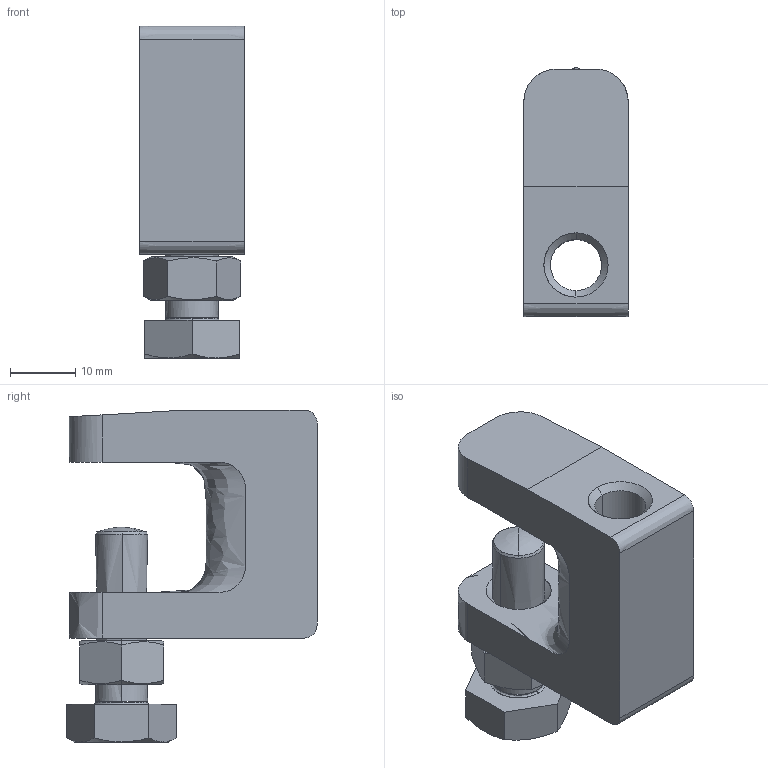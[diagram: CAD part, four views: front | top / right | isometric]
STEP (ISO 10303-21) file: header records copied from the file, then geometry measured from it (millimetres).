
FILE_DESCRIPTION(/* description */ (''),/* implementation_level */ '2;1');
FILE_NAME(/* name */ 'DZM09',/* time_stamp */ '2012-11-29T22:46:37+01:00',/* author */ (''),/* organization */ (''),/* preprocessor_version */ 'ST-DEVELOPER v10',/* originating_system */ '',/* authorisation */ '');
FILE_SCHEMA (('AUTOMOTIVE_DESIGN_CC2'));
Length unit declared in the file: millimetre
Products named in the file (1): 1
Bounding box: 16 x 38.39 x 50.96 mm (x, y, z)
Surface area: 7272.7 mm2 (no closed solid volume)
Topology: 0 solids, 53 shells, 67 faces, 275 edges, 248 vertices
Faces by surface type: bspline 43, plane 24
Entity records: 6529 total; most frequent: CARTESIAN_POINT 4640, ORIENTED_EDGE 299, EDGE_CURVE 271, VERTEX_POINT 244, B_SPLINE_CURVE_WITH_KNOTS 204, EDGE_LOOP 74, ADVANCED_FACE 67, FACE_OUTER_BOUND 67
